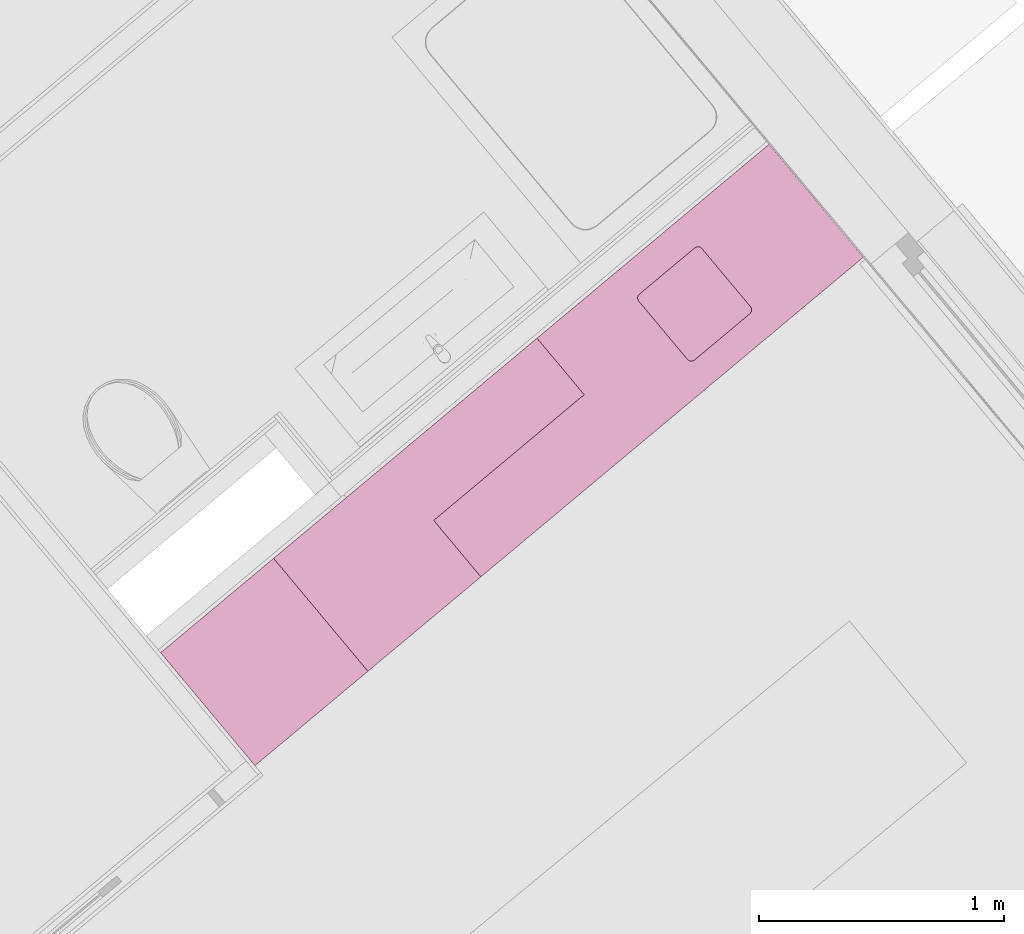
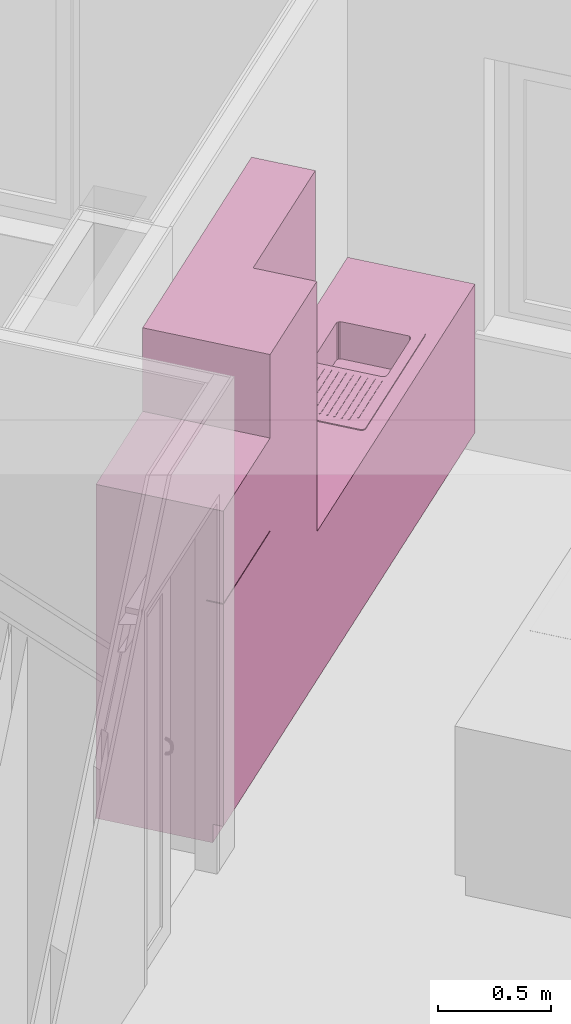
# One storey, part 73 of 75: 1 furniture element.
"""IFC4 building model written with IfcOpenShell, lengths in metres."""

from ifc_helpers import new_model, entity, si_unit, converted_unit, derived_unit, direction, frame, origin_with_axes, place, context, subcontext, project, spatial, polygons, source, transform, mapped, type_object, element, save


model = new_model("IFC4")

# Units and contexts
model_context = context("Model", 3, precision=1e-05, world=origin_with_axes(), true_north=direction((0.0, 1.0)))
body_context = subcontext(model_context, "Body", "Model", "MODEL_VIEW")
ifc_project = project(units=[si_unit("LENGTHUNIT", "METRE"), si_unit("AREAUNIT", "SQUARE_METRE"), si_unit("VOLUMEUNIT", "CUBIC_METRE"), converted_unit("PLANEANGLEUNIT", "DEGREE", entity("IfcPlaneAngleMeasure", 0.0174532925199), si_unit("PLANEANGLEUNIT", "RADIAN"), dimensions=[0, 0, 0, 0, 0, 0, 0]), converted_unit("TIMEUNIT", "Year", entity("IfcTimeMeasure", 31556926.0), si_unit("TIMEUNIT", "SECOND"), dimensions=[0, 0, 1, 0, 0, 0, 0]), si_unit("MASSUNIT", "GRAM", prefix="KILO"), si_unit("THERMODYNAMICTEMPERATUREUNIT", "DEGREE_CELSIUS"), si_unit("LUMINOUSINTENSITYUNIT", "LUMEN"), si_unit("ENERGYUNIT", "JOULE", prefix="MEGA"), derived_unit("THERMALCONDUCTANCEUNIT", [(si_unit("POWERUNIT", "WATT"), 1), (si_unit("LENGTHUNIT", "METRE"), -1), (si_unit("THERMODYNAMICTEMPERATUREUNIT", "KELVIN"), -1)]), derived_unit("SPECIFICHEATCAPACITYUNIT", [(si_unit("ENERGYUNIT", "JOULE"), 1), (si_unit("MASSUNIT", "GRAM", prefix="KILO"), -1), (si_unit("THERMODYNAMICTEMPERATUREUNIT", "KELVIN"), -1)]), derived_unit("MASSDENSITYUNIT", [(si_unit("MASSUNIT", "GRAM", prefix="KILO"), 1), (si_unit("VOLUMEUNIT", "CUBIC_METRE"), -1)])], contexts=[model_context])

# Site, building, storey, space
site_placement = place(None, frame((-0.00153261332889, -0.00661245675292, 0.0), z_axis=(0.0, 0.0, 1.0), x_axis=(1.0, 0.0, 0.0)))
site = spatial("IfcSite", under=ifc_project, at=site_placement, Name="Gelände", CompositionType="ELEMENT")
building_placement = place(site_placement, origin_with_axes())
building = spatial("IfcBuilding", under=site, at=building_placement, Name="Gebäude", CompositionType="ELEMENT")
storey_placement = place(building_placement, frame((0.0, 0.0, -0.22), z_axis=(0.0, 0.0, 1.0), x_axis=(1.0, 0.0, 0.0)))
storey = spatial("IfcBuildingStorey", under=building, at=storey_placement, Name="EG", CompositionType="ELEMENT", Elevation=-0.22)
space_placement = place(storey_placement, frame((12.8063322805, 20.3315828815, 0.22), z_axis=(0.0, 0.0, 1.0), x_axis=(-0.641209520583, 0.767365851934, 0.0)))
space = spatial("IfcSpace", under=storey, at=space_placement, CompositionType="ELEMENT", PredefinedType="NOTDEFINED")

# Furniture
furniture_type = type_object("IfcFurnitureType", Name="Konzeptküche 26", AssemblyPlace="NOTDEFINED", PredefinedType="NOTDEFINED")
shared_shape = source(origin_with_axes(), body_context, "Body", "Tessellation", [
    polygons([(-0.968323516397, 0.0, 0.0), (-0.968323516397, 0.0, 0.1), (-3.0, 0.0, 0.1), (-3.0, 0.0, 0.0), (-0.968323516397, 0.55, 0.0), (-0.968323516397, 0.55, 0.1), (-3.0, 0.55, 0.1), (-3.0, 0.55, 0.0)], [[[1, 2, 3, 4]], [[5, 6, 2, 1]], [[2, 6, 7, 3]], [[4, 3, 7, 8]], [[1, 4, 8, 5]], [[8, 7, 6, 5]]], closed=True),
    polygons([(-0.968323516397, 0.6, 0.85), (-0.968323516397, 0.0, 0.85), (-3.0, 0.0, 0.85), (-3.0, 0.6, 0.85), (-1.79253770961, 0.055, 0.85), (-1.79253770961, 0.505, 0.85), (-2.54253770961, 0.505, 0.85), (-2.54253770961, 0.055, 0.85), (-0.968323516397, 0.6, 0.9), (-0.968323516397, 0.0, 0.9), (-3.0, 0.0, 0.9), (-3.0, 0.6, 0.9), (-1.79253770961, 0.505, 0.9), (-1.79253770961, 0.055, 0.9), (-2.54253770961, 0.505, 0.9), (-2.54253770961, 0.055, 0.9)], [[[1, 2, 3, 4], [5, 6, 7, 8]], [[2, 1, 9, 10]], [[3, 2, 10, 11]], [[4, 3, 11, 12]], [[1, 4, 12, 9]], [[13, 6, 5, 14]], [[15, 7, 6, 13]], [[16, 8, 7, 15]], [[14, 5, 8, 16]], [[11, 10, 9, 12], [14, 16, 15, 13]]], closed=True),
    polygons([(-0.968323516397, 0.6, 0.1), (-0.968323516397, 0.0, 0.1), (-3.0, 0.0, 0.1), (-3.0, 0.6, 0.1), (-1.79253770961, 0.055, 0.1), (-1.79253770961, 0.505, 0.1), (-2.54253770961, 0.505, 0.1), (-2.54253770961, 0.055, 0.1), (-0.968323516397, 0.6, 0.85), (-0.968323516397, 0.0, 0.85), (-3.0, 0.0, 0.85), (-3.0, 0.6, 0.85), (-1.79253770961, 0.505, 0.85), (-1.79253770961, 0.055, 0.85), (-2.54253770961, 0.505, 0.85), (-2.54253770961, 0.055, 0.85)], [[[1, 2, 3, 4], [5, 6, 7, 8]], [[2, 1, 9, 10]], [[3, 2, 10, 11]], [[4, 3, 11, 12]], [[1, 4, 12, 9]], [[13, 6, 5, 14]], [[15, 7, 6, 13]], [[16, 8, 7, 15]], [[14, 5, 8, 16]], [[11, 10, 9, 12], [14, 16, 15, 13]]], closed=True),
    polygons([(-0.968323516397, 0.0, 1.5), (-0.968323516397, 0.0, 2.25), (-1.76753770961, 0.0, 2.25), (-1.76753770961, 0.0, 1.5), (-0.968323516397, 0.3, 1.5), (-0.968323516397, 0.3, 2.25), (-1.76753770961, 0.3, 2.25), (-1.76753770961, 0.3, 1.5)], [[[1, 2, 3, 4]], [[5, 6, 2, 1]], [[2, 6, 7, 3]], [[4, 3, 7, 8]], [[1, 4, 8, 5]], [[8, 7, 6, 5]]], closed=True),
    polygons([(-0.368323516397, 0.52, 0.0), (-0.368323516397, 0.52, 0.1), (-0.368323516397, 0.55, 0.1), (-0.368323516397, 0.55, 0.0), (0.231676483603, 0.52, 0.0), (0.231676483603, 0.52, 0.1), (0.231676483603, 0.55, 0.1), (0.231676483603, 0.55, 0.0)], [[[1, 2, 3, 4]], [[5, 6, 2, 1]], [[2, 6, 7, 3]], [[4, 3, 7, 8]], [[1, 4, 8, 5]], [[8, 7, 6, 5]]], closed=True),
    polygons([(-0.368323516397, 0.52, 0.0), (-0.368323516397, 0.52, 1.8), (0.231676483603, 0.52, 1.8), (0.231676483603, 0.52, 0.0), (-0.368323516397, 0.0, 0.0), (-0.368323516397, 0.0, 1.8), (0.231676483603, 0.0, 1.8), (0.231676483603, 0.0, 0.0)], [[[1, 2, 3, 4]], [[5, 6, 2, 1]], [[2, 6, 7, 3]], [[4, 3, 7, 8]], [[1, 4, 8, 5]], [[8, 7, 6, 5]]], closed=True),
    polygons([(-0.368323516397, 0.5199, 0.1), (-0.368323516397, 0.5199, 1.2975), (-0.368323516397, 0.6, 1.2975), (-0.368323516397, 0.6, 0.1), (0.231676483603, 0.5199, 0.1), (0.231676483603, 0.5199, 1.2975), (0.231676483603, 0.6, 1.2975), (0.231676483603, 0.6, 0.1)], [[[1, 2, 3, 4]], [[5, 6, 2, 1]], [[2, 6, 7, 3]], [[4, 3, 7, 8]], [[1, 4, 8, 5]], [[8, 7, 6, 5]]], closed=True),
    polygons([(-0.368323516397, 0.5199, 1.3025), (-0.368323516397, 0.5199, 1.8), (-0.368323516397, 0.6, 1.8), (-0.368323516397, 0.6, 1.3025), (0.231676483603, 0.5199, 1.3025), (0.231676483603, 0.5199, 1.8), (0.231676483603, 0.6, 1.8), (0.231676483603, 0.6, 1.3025)], [[[1, 2, 3, 4]], [[5, 6, 2, 1]], [[2, 6, 7, 3]], [[4, 3, 7, 8]], [[1, 4, 8, 5]], [[8, 7, 6, 5]]], closed=True),
    polygons([(-2.49753770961, 0.48, 0.705), (-2.49753770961, 0.48, 0.9), (-2.20253770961, 0.48, 0.9), (-2.20253770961, 0.48, 0.705), (-2.50519137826, 0.47847759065, 0.705), (-2.50519137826, 0.47847759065, 0.9), (-2.19488404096, 0.47847759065, 0.9), (-2.19488404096, 0.47847759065, 0.705), (-2.18839557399, 0.474142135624, 0.705), (-2.18406011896, 0.467653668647, 0.705), (-2.18253770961, 0.46, 0.705), (-2.18253770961, 0.15, 0.705), (-2.18406011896, 0.142346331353, 0.705), (-2.18839557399, 0.135857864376, 0.705), (-2.19488404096, 0.13152240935, 0.705), (-2.20253770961, 0.13, 0.705), (-2.49753770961, 0.13, 0.705), (-2.50519137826, 0.13152240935, 0.705), (-2.51167984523, 0.135857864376, 0.705), (-2.51601530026, 0.142346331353, 0.705), (-2.51753770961, 0.15, 0.705), (-2.51753770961, 0.46, 0.705), (-2.51601530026, 0.467653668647, 0.705), (-2.51167984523, 0.474142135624, 0.705), (-2.51167984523, 0.474142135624, 0.9), (-2.18839557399, 0.474142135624, 0.9), (-2.18406011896, 0.467653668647, 0.9), (-2.18253770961, 0.46, 0.9), (-2.18253770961, 0.15, 0.9), (-2.18406011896, 0.142346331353, 0.9), (-2.18839557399, 0.135857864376, 0.9), (-2.19488404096, 0.13152240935, 0.9), (-2.20253770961, 0.13, 0.9), (-2.49753770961, 0.13, 0.9), (-2.50519137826, 0.13152240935, 0.9), (-2.51167984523, 0.135857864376, 0.9), (-2.51601530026, 0.142346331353, 0.9), (-2.51753770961, 0.15, 0.9), (-2.51753770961, 0.46, 0.9), (-2.51601530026, 0.467653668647, 0.9)], [[[1, 2, 3, 4]], [[5, 6, 2, 1]], [[4, 3, 7, 8]], [[1, 4, 8, 9, 10, 11, 12, 13, 14, 15, 16, 17, 18, 19, 20, 21, 22, 23, 24, 5]], [[24, 25, 6, 5]], [[8, 7, 26, 9]], [[9, 26, 27, 10]], [[10, 27, 28, 11]], [[11, 28, 29, 12]], [[12, 29, 30, 13]], [[13, 30, 31, 14]], [[14, 31, 32, 15]], [[15, 32, 33, 16]], [[16, 33, 34, 17]], [[17, 34, 35, 18]], [[18, 35, 36, 19]], [[19, 36, 37, 20]], [[20, 37, 38, 21]], [[21, 38, 39, 22]], [[22, 39, 40, 23]], [[23, 40, 25, 24]]], closed=False),
    polygons([(-2.54753770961, 0.53, 0.9), (-2.54753770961, 0.53, 0.905), (-1.78753770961, 0.53, 0.905), (-1.78753770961, 0.53, 0.9), (-2.55519137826, 0.52847759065, 0.9), (-2.55519137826, 0.52847759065, 0.905), (-2.56167984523, 0.524142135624, 0.905), (-2.56601530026, 0.517653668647, 0.905), (-2.56753770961, 0.51, 0.905), (-2.56753770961, 0.05, 0.905), (-2.56601530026, 0.0423463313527, 0.905), (-2.56167984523, 0.0358578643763, 0.905), (-2.55519137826, 0.0315224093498, 0.905), (-2.54753770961, 0.03, 0.905), (-1.78753770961, 0.03, 0.905), (-1.77988404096, 0.0315224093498, 0.905), (-1.77339557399, 0.0358578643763, 0.905), (-1.76906011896, 0.0423463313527, 0.905), (-1.76753770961, 0.05, 0.905), (-1.76753770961, 0.51, 0.905), (-1.76906011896, 0.517653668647, 0.905), (-1.77339557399, 0.524142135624, 0.905), (-1.77988404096, 0.52847759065, 0.905), (-2.49753770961, 0.48, 0.905), (-2.20253770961, 0.48, 0.905), (-2.19488404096, 0.47847759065, 0.905), (-2.18839557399, 0.474142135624, 0.905), (-2.18406011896, 0.467653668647, 0.905), (-2.18253770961, 0.46, 0.905), (-2.18253770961, 0.15, 0.905), (-2.18406011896, 0.142346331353, 0.905), (-2.18839557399, 0.135857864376, 0.905), (-2.19488404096, 0.13152240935, 0.905), (-2.20253770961, 0.13, 0.905), (-2.49753770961, 0.13, 0.905), (-2.50519137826, 0.13152240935, 0.905), (-2.51167984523, 0.135857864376, 0.905), (-2.51601530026, 0.142346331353, 0.905), (-2.51753770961, 0.15, 0.905), (-2.51753770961, 0.46, 0.905), (-2.51601530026, 0.467653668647, 0.905), (-2.51167984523, 0.474142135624, 0.905), (-2.50519137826, 0.47847759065, 0.905), (-1.77988404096, 0.52847759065, 0.9), (-1.77339557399, 0.524142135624, 0.9), (-1.76906011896, 0.517653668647, 0.9), (-1.76753770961, 0.51, 0.9), (-1.76753770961, 0.05, 0.9), (-1.76906011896, 0.0423463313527, 0.9), (-1.77339557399, 0.0358578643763, 0.9), (-1.77988404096, 0.0315224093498, 0.9), (-1.78753770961, 0.03, 0.9), (-2.54753770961, 0.03, 0.9), (-2.55519137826, 0.0315224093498, 0.9), (-2.56167984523, 0.0358578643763, 0.9), (-2.56601530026, 0.0423463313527, 0.9), (-2.56753770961, 0.05, 0.9), (-2.56753770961, 0.51, 0.9), (-2.56601530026, 0.517653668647, 0.9), (-2.56167984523, 0.524142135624, 0.9), (-2.49753770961, 0.48, 0.9), (-2.50519137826, 0.47847759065, 0.9), (-2.51167984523, 0.474142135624, 0.9), (-2.51601530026, 0.467653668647, 0.9), (-2.51753770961, 0.46, 0.9), (-2.51753770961, 0.15, 0.9), (-2.51601530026, 0.142346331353, 0.9), (-2.51167984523, 0.135857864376, 0.9), (-2.50519137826, 0.13152240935, 0.9), (-2.49753770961, 0.13, 0.9), (-2.20253770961, 0.13, 0.9), (-2.19488404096, 0.13152240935, 0.9), (-2.18839557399, 0.135857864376, 0.9), (-2.18406011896, 0.142346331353, 0.9), (-2.18253770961, 0.15, 0.9), (-2.18253770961, 0.46, 0.9), (-2.18406011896, 0.467653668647, 0.9), (-2.18839557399, 0.474142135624, 0.9), (-2.19488404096, 0.47847759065, 0.9), (-2.20253770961, 0.48, 0.9)], [[[1, 2, 3, 4]], [[5, 6, 2, 1]], [[2, 6, 7, 8, 9, 10, 11, 12, 13, 14, 15, 16, 17, 18, 19, 20, 21, 22, 23, 3], [24, 25, 26, 27, 28, 29, 30, 31, 32, 33, 34, 35, 36, 37, 38, 39, 40, 41, 42, 43]], [[4, 3, 23, 44]], [[1, 4, 44, 45, 46, 47, 48, 49, 50, 51, 52, 53, 54, 55, 56, 57, 58, 59, 60, 5], [61, 62, 63, 64, 65, 66, 67, 68, 69, 70, 71, 72, 73, 74, 75, 76, 77, 78, 79, 80]], [[60, 7, 6, 5]], [[59, 8, 7, 60]], [[58, 9, 8, 59]], [[57, 10, 9, 58]], [[56, 11, 10, 57]], [[55, 12, 11, 56]], [[54, 13, 12, 55]], [[53, 14, 13, 54]], [[52, 15, 14, 53]], [[51, 16, 15, 52]], [[50, 17, 16, 51]], [[49, 18, 17, 50]], [[48, 19, 18, 49]], [[47, 20, 19, 48]], [[46, 21, 20, 47]], [[45, 22, 21, 46]], [[44, 23, 22, 45]], [[80, 25, 24, 61]], [[79, 26, 25, 80]], [[78, 27, 26, 79]], [[77, 28, 27, 78]], [[76, 29, 28, 77]], [[75, 30, 29, 76]], [[74, 31, 30, 75]], [[73, 32, 31, 74]], [[72, 33, 32, 73]], [[71, 34, 33, 72]], [[70, 35, 34, 71]], [[69, 36, 35, 70]], [[68, 37, 36, 69]], [[67, 38, 37, 68]], [[66, 39, 38, 67]], [[65, 40, 39, 66]], [[64, 41, 40, 65]], [[63, 42, 41, 64]], [[62, 43, 42, 63]], [[61, 24, 43, 62]]], closed=True),
    polygons([(-2.15253770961, 0.475, 0.905), (-2.15253770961, 0.475, 0.907), (-1.84753770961, 0.475, 0.907), (-1.84753770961, 0.475, 0.905), (-2.15253770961, 0.47, 0.905), (-2.15253770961, 0.47, 0.907), (-1.84753770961, 0.47, 0.907), (-1.84753770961, 0.47, 0.905)], [[[1, 2, 3, 4]], [[5, 6, 2, 1]], [[2, 6, 7, 3]], [[4, 3, 7, 8]], [[1, 4, 8, 5]], [[8, 7, 6, 5]]], closed=True),
    polygons([(-2.15253770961, 0.441, 0.905), (-2.15253770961, 0.441, 0.907), (-1.81753770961, 0.441, 0.907), (-1.81753770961, 0.441, 0.905), (-2.15253770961, 0.436, 0.905), (-2.15253770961, 0.436, 0.907), (-1.81753770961, 0.436, 0.907), (-1.81753770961, 0.436, 0.905)], [[[1, 2, 3, 4]], [[5, 6, 2, 1]], [[2, 6, 7, 3]], [[4, 3, 7, 8]], [[1, 4, 8, 5]], [[8, 7, 6, 5]]], closed=True),
    polygons([(-2.15253770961, 0.407, 0.905), (-2.15253770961, 0.407, 0.907), (-1.81753770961, 0.407, 0.907), (-1.81753770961, 0.407, 0.905), (-2.15253770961, 0.402, 0.905), (-2.15253770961, 0.402, 0.907), (-1.81753770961, 0.402, 0.907), (-1.81753770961, 0.402, 0.905)], [[[1, 2, 3, 4]], [[5, 6, 2, 1]], [[2, 6, 7, 3]], [[4, 3, 7, 8]], [[1, 4, 8, 5]], [[8, 7, 6, 5]]], closed=True),
    polygons([(-2.15253770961, 0.373, 0.905), (-2.15253770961, 0.373, 0.907), (-1.81753770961, 0.373, 0.907), (-1.81753770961, 0.373, 0.905), (-2.15253770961, 0.368, 0.905), (-2.15253770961, 0.368, 0.907), (-1.81753770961, 0.368, 0.907), (-1.81753770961, 0.368, 0.905)], [[[1, 2, 3, 4]], [[5, 6, 2, 1]], [[2, 6, 7, 3]], [[4, 3, 7, 8]], [[1, 4, 8, 5]], [[8, 7, 6, 5]]], closed=True),
    polygons([(-2.15253770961, 0.339, 0.905), (-2.15253770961, 0.339, 0.907), (-1.81753770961, 0.339, 0.907), (-1.81753770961, 0.339, 0.905), (-2.15253770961, 0.334, 0.905), (-2.15253770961, 0.334, 0.907), (-1.81753770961, 0.334, 0.907), (-1.81753770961, 0.334, 0.905)], [[[1, 2, 3, 4]], [[5, 6, 2, 1]], [[2, 6, 7, 3]], [[4, 3, 7, 8]], [[1, 4, 8, 5]], [[8, 7, 6, 5]]], closed=True),
    polygons([(-2.15253770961, 0.305, 0.905), (-2.15253770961, 0.305, 0.907), (-1.81753770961, 0.305, 0.907), (-1.81753770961, 0.305, 0.905), (-2.15253770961, 0.3, 0.905), (-2.15253770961, 0.3, 0.907), (-1.81753770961, 0.3, 0.907), (-1.81753770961, 0.3, 0.905)], [[[1, 2, 3, 4]], [[5, 6, 2, 1]], [[2, 6, 7, 3]], [[4, 3, 7, 8]], [[1, 4, 8, 5]], [[8, 7, 6, 5]]], closed=True),
    polygons([(-2.15253770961, 0.271, 0.905), (-2.15253770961, 0.271, 0.907), (-1.81753770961, 0.271, 0.907), (-1.81753770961, 0.271, 0.905), (-2.15253770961, 0.266, 0.905), (-2.15253770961, 0.266, 0.907), (-1.81753770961, 0.266, 0.907), (-1.81753770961, 0.266, 0.905)], [[[1, 2, 3, 4]], [[5, 6, 2, 1]], [[2, 6, 7, 3]], [[4, 3, 7, 8]], [[1, 4, 8, 5]], [[8, 7, 6, 5]]], closed=True),
    polygons([(-2.15253770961, 0.237, 0.905), (-2.15253770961, 0.237, 0.907), (-1.81753770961, 0.237, 0.907), (-1.81753770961, 0.237, 0.905), (-2.15253770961, 0.232, 0.905), (-2.15253770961, 0.232, 0.907), (-1.81753770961, 0.232, 0.907), (-1.81753770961, 0.232, 0.905)], [[[1, 2, 3, 4]], [[5, 6, 2, 1]], [[2, 6, 7, 3]], [[4, 3, 7, 8]], [[1, 4, 8, 5]], [[8, 7, 6, 5]]], closed=True),
    polygons([(-2.15253770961, 0.203, 0.905), (-2.15253770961, 0.203, 0.907), (-1.81753770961, 0.203, 0.907), (-1.81753770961, 0.203, 0.905), (-2.15253770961, 0.198, 0.905), (-2.15253770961, 0.198, 0.907), (-1.81753770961, 0.198, 0.907), (-1.81753770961, 0.198, 0.905)], [[[1, 2, 3, 4]], [[5, 6, 2, 1]], [[2, 6, 7, 3]], [[4, 3, 7, 8]], [[1, 4, 8, 5]], [[8, 7, 6, 5]]], closed=True),
    polygons([(-2.15253770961, 0.169, 0.905), (-2.15253770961, 0.169, 0.907), (-1.81753770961, 0.169, 0.907), (-1.81753770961, 0.169, 0.905), (-2.15253770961, 0.164, 0.905), (-2.15253770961, 0.164, 0.907), (-1.81753770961, 0.164, 0.907), (-1.81753770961, 0.164, 0.905)], [[[1, 2, 3, 4]], [[5, 6, 2, 1]], [[2, 6, 7, 3]], [[4, 3, 7, 8]], [[1, 4, 8, 5]], [[8, 7, 6, 5]]], closed=True),
    polygons([(-2.15253770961, 0.135, 0.905), (-2.15253770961, 0.135, 0.907), (-1.84753770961, 0.135, 0.907), (-1.84753770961, 0.135, 0.905), (-2.15253770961, 0.13, 0.905), (-2.15253770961, 0.13, 0.907), (-1.84753770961, 0.13, 0.907), (-1.84753770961, 0.13, 0.905)], [[[1, 2, 3, 4]], [[5, 6, 2, 1]], [[2, 6, 7, 3]], [[4, 3, 7, 8]], [[1, 4, 8, 5]], [[8, 7, 6, 5]]], closed=True),
    polygons([(-0.968323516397, 0.55, 0.0), (-0.968323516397, 0.55, 0.1), (-0.368323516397, 0.55, 0.1), (-0.368323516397, 0.55, 0.0), (-0.968323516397, 0.0, 0.0), (-0.968323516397, 0.0, 0.1), (-0.368323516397, 0.0, 0.1), (-0.368323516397, 0.0, 0.0)], [[[1, 2, 3, 4]], [[5, 6, 2, 1]], [[2, 6, 7, 3]], [[4, 3, 7, 8]], [[1, 4, 8, 5]], [[8, 7, 6, 5]]], closed=True),
    polygons([(-0.968323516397, 0.6, 0.1), (-0.968323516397, 0.6, 2.25), (-0.368323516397, 0.6, 2.25), (-0.368323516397, 0.6, 0.1), (-0.968323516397, 0.0, 0.1), (-0.968323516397, 0.0, 2.25), (-0.368323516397, 0.0, 2.25), (-0.368323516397, 0.0, 0.1)], [[[1, 2, 3, 4]], [[5, 6, 2, 1]], [[2, 6, 7, 3]], [[4, 3, 7, 8]], [[1, 4, 8, 5]], [[8, 7, 6, 5]]], closed=True),
])
furniture_placement = place(space_placement, frame((6.10980259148, 2.99999999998, 0.0), z_axis=(0.0, 0.0, 1.0), x_axis=(0.0, 1.0, 0.0)))
element("IfcFurniture", 1, at=furniture_placement, inside=space, type_object=furniture_type, Name="Objekt-0002", PredefinedType="NOTDEFINED", context=body_context, shape_type="MappedRepresentation", body=[
    mapped(shared_shape, transform((0.0, 0.0, 0.0))),
])

save(model, "model.ifc")
